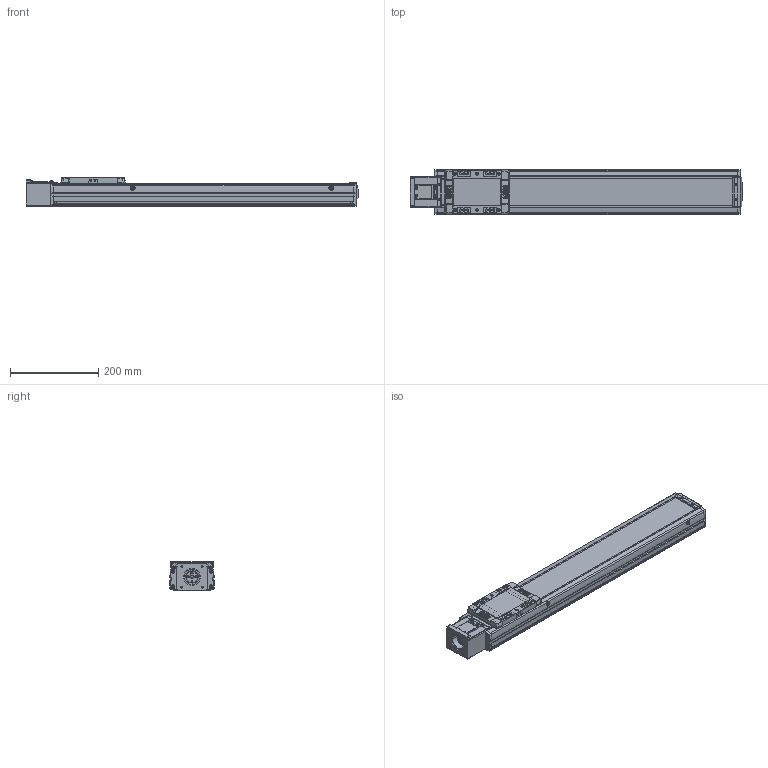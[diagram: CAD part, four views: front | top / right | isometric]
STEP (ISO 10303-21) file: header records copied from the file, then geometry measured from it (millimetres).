
FILE_DESCRIPTION(('STEP AP214'),'1');
FILE_NAME('Z:/Web/3D/SAN100/SAN100 양산용 (STEP)/SAN100ㅁㅁ-500S.stp','2013-04-26T01:49:11',(' '),(' '),'Spatial InterOp 3D',' ',' ');
FILE_SCHEMA(('automotive_design'));
Length unit declared in the file: millimetre
Products named in the file (40): MTHZ-SAN100-S56A; SDA26C-8-6.35; SSFX-SAN65; CPLCV-SAN65; M3.0 x 6.0; 스크루 : Round - M4.0 x 10.0; FRCV-SAN100; SUS COVER; SFX-SAN100; RRCV-SAN100; 스크루 : Round - M3.0 x 6.0; FRBL-SAN100; SLBL-SAN100; SLCV-SAN100; 스크루 : Countersunk - M3.0 x 6.0; BASE; 스크루 : Round - M5.0 x 6.0
Bounding box: 752.5 x 100 x 66 mm (x, y, z)
Volume: 2105942 mm3; surface area: 527272 mm2
Topology: 40 solids, 41 shells, 2432 faces, 6414 edges, 4145 vertices
Faces by surface type: plane 1143, cylinder 951, cone 221, sphere 52, torus 45, bspline 20
Entity records: 97530 total; most frequent: CARTESIAN_POINT 15453, DIRECTION 13570, ORIENTED_EDGE 12648, EDGE_CURVE 6324, AXIS2_PLACEMENT_3D 4977, VERTEX_POINT 4145, LINE 3616, VECTOR 3616
